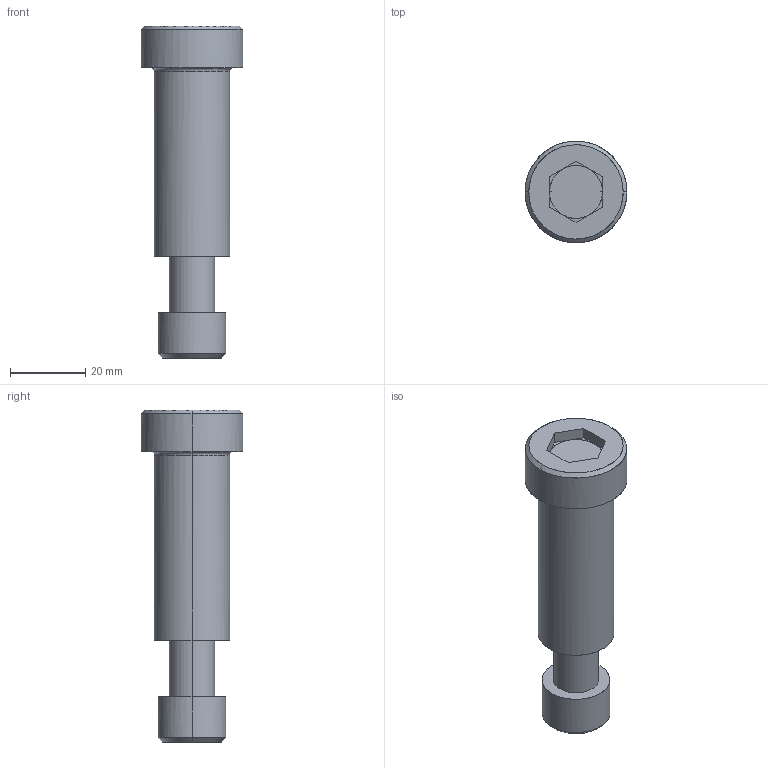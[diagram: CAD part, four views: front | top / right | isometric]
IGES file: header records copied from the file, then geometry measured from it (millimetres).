
Global section: file name: E:\UnigraphicsGraphicData\MISUMI_PRESS-PARTS\IGES\3d_sbtk20-50-30_05166_r00.igs; native system: NX V5.0; preprocessor: UGS NX IGES V5.0; author: MISUMI; date: 20110105.162502; units: millimetre
Bounding box: 27 x 27 x 88 mm (x, y, z)
Surface area: 8985.8 mm2 (no closed solid volume)
Topology: 0 solids, 0 shells, 46 faces, 272 edges, 268 vertices
Faces by surface type: bspline 46
